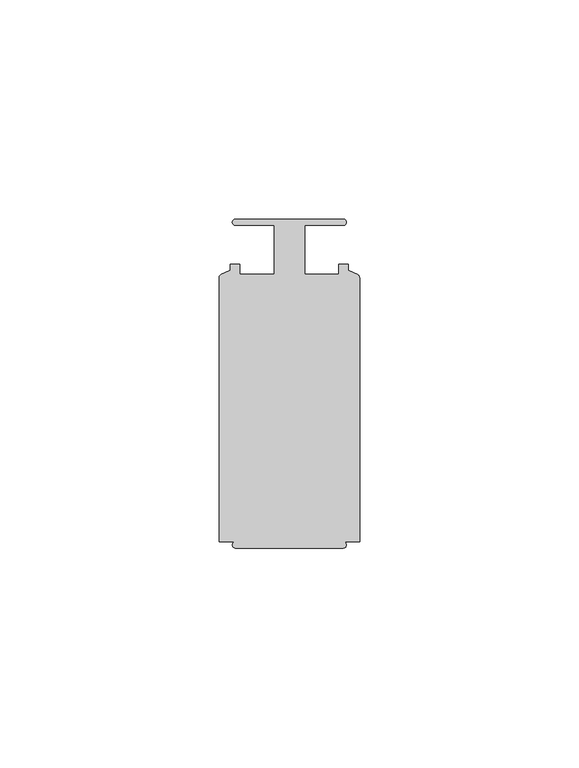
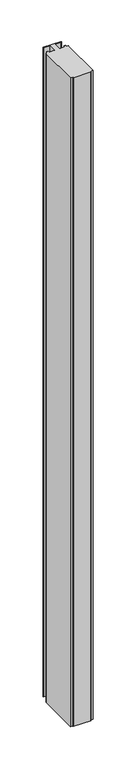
"""IFC4 building model written with IfcOpenShell, lengths in millimetres: member geometry, Прямоугольный импост : 2-AMG-1-Профиль 26Х75 Средний."""

from ifc_helpers import new_model, si_unit, point, frame, frame_2d, origin, place, context, project, spatial, polyline, circle_curve, trimmed, segment, composite_curve, outline, extrude, source, transform, mapped, element, save


def member_95ee6080(model_context):
    return source(origin(), model_context, "Body", "SweptSolid", [
        extrude(outline(composite_curve([segment(trimmed(circle_curve(frame_2d((12.2976562, 36.8)), 0.7), [point((12.2976562, 37.5))], [point((12.2976562, 36.1))], False, "CARTESIAN"), True, "CONTINUOUS"), segment(polyline([(12.2976562, 36.1), (3.4976562, 36.1), (3.4976562, 25.0), (11.2193767, 25.0), (11.2193767, 27.25), (13.4446403, 27.25), (13.4446403, 25.836597), (15.5172539, 24.9333875)]), True, "CONTINUOUS"), segment(trimmed(circle_curve(frame_2d((15.1976562, 24.2)), 0.8), [point((15.5172539, 24.9333875))], [point((15.9976562, 24.2))], False, "CARTESIAN"), True, "CONTINUOUS"), segment(polyline([(15.9976562, 24.2), (15.9976562, -36.1), (12.295789, -36.1)]), True, "CONTINUOUS"), segment(trimmed(circle_curve(frame_2d((12.295789, -36.8)), 0.7), [point((12.295789, -36.1))], [point((12.295789, -37.5))], False, "CARTESIAN"), True, "CONTINUOUS"), segment(polyline([(12.295789, -37.5), (-12.3004766, -37.5)]), True, "CONTINUOUS"), segment(trimmed(circle_curve(frame_2d((-12.3004766, -36.8)), 0.7), [point((-12.3004766, -37.5))], [point((-12.3004766, -36.1))], False, "CARTESIAN"), True, "CONTINUOUS"), segment(polyline([(-12.3004766, -36.1), (-16.0023438, -36.1), (-16.0023438, 24.2)]), True, "CONTINUOUS"), segment(trimmed(circle_curve(frame_2d((-15.2023438, 24.2)), 0.8), [point((-16.0023438, 24.2))], [point((-15.5219415, 24.9333875))], False, "CARTESIAN"), True, "CONTINUOUS"), segment(polyline([(-15.5219415, 24.9333875), (-13.4493278, 25.836597), (-13.4493278, 27.25), (-11.2993767, 27.25), (-11.2993767, 25.0), (-3.5023438, 25.0), (-3.5023438, 36.1), (-12.3023438, 36.1)]), True, "CONTINUOUS"), segment(trimmed(circle_curve(frame_2d((-12.3023438, 36.8)), 0.7), [point((-12.3023438, 36.1))], [point((-12.3023438, 37.5))], False, "CARTESIAN"), True, "CONTINUOUS"), segment(polyline([(-12.3023438, 37.5), (12.2976562, 37.5)]), True, "CONTINUOUS")], self_intersect=False)), frame((0.0, 0.0, -973.0), z_axis=(0.0, 0.0, 1.0), x_axis=(1.0, 0.0, 0.0)), (0.0, 0.0, 1.0), 973.0),
    ])


if __name__ == "__main__":
    model = new_model("IFC4")
    model_context = context("Model", 3, world=origin())
    ifc_project = project(units=[si_unit("LENGTHUNIT", "METRE", prefix="MILLI")], contexts=[model_context])
    site = spatial("IfcSite", under=ifc_project)
    building = spatial("IfcBuilding", under=site)
    placement = place(None, origin())
    member_shape = member_95ee6080(model_context)
    element("IfcMember", 1, ObjectType="Прямоугольный импост : 2-AMG-1-Профиль 26Х75 Средний", at=placement, inside=building, context=model_context, shape_type="MappedRepresentation", body=[
        mapped(member_shape, transform((0.0, 0.0, 0.0), x_axis=(1.0, 0.0, 0.0), y_axis=(0.0, 1.0, 0.0), z_axis=(0.0, 0.0, 1.0))),
    ])
    save(model, "model.ifc")
